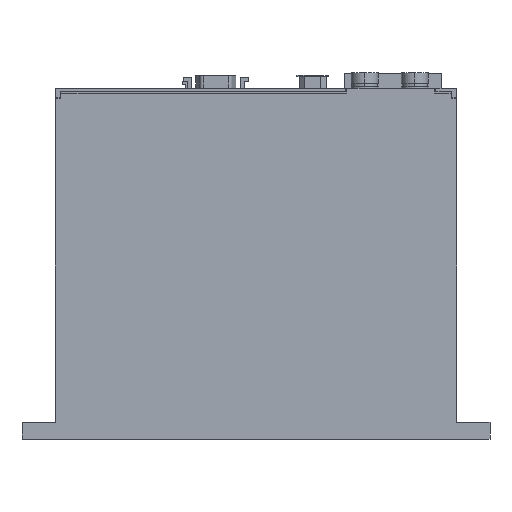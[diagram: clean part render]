
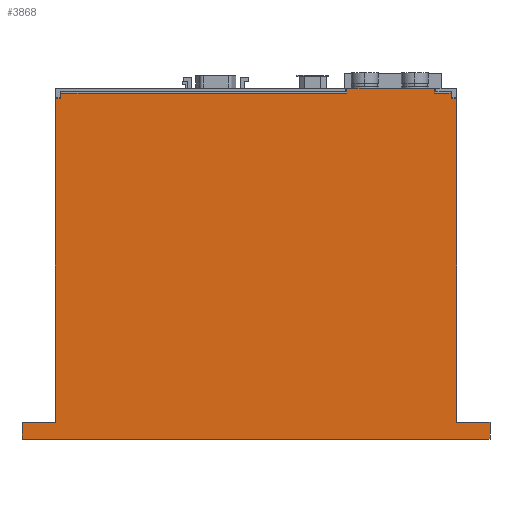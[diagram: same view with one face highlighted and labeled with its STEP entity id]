
A CAD part, left-side view. The second image highlights one B-rep face of the part: STEP entity #3868.
In plain terms, the highlighted planar face has unit normal (-1, 0, 0).
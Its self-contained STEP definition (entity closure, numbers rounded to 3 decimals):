
#2731 = VERTEX_POINT ( 'NONE', #9546 ) ;
#2733 = EDGE_CURVE ( 'NONE', #2731, #2734, #9545, .T. ) ;
#2734 = VERTEX_POINT ( 'NONE', #9541 ) ;
#2762 = EDGE_CURVE ( 'NONE', #2763, #2790, #9607, .T. ) ;
#2763 = VERTEX_POINT ( 'NONE', #9603 ) ;
#2779 = EDGE_CURVE ( 'NONE', #2780, #2781, #9640, .T. ) ;
#2780 = VERTEX_POINT ( 'NONE', #9636 ) ;
#2781 = VERTEX_POINT ( 'NONE', #9635 ) ;
#2790 = VERTEX_POINT ( 'NONE', #9683 ) ;
#2962 = VERTEX_POINT ( 'NONE', #9991 ) ;
#3026 = VERTEX_POINT ( 'NONE', #10134 ) ;
#3028 = EDGE_CURVE ( 'NONE', #3026, #2962, #10133, .T. ) ;
#3046 = VERTEX_POINT ( 'NONE', #10162 ) ;
#3048 = EDGE_CURVE ( 'NONE', #3046, #3026, #10161, .T. ) ;
#3088 = VERTEX_POINT ( 'NONE', #10215 ) ;
#3096 = VERTEX_POINT ( 'NONE', #10267 ) ;
#3119 = EDGE_CURVE ( 'NONE', #3120, #3121, #10299, .T. ) ;
#3120 = VERTEX_POINT ( 'NONE', #10295 ) ;
#3121 = VERTEX_POINT ( 'NONE', #10294 ) ;
#3287 = ORIENTED_EDGE ( 'NONE', *, *, #3923, .T. ) ;
#3848 = EDGE_CURVE ( 'NONE', #2731, #2780, #11495, .T. ) ;
#3849 = ORIENTED_EDGE ( 'NONE', *, *, #3850, .F. ) ;
#3850 = EDGE_CURVE ( 'NONE', #3121, #3875, #11491, .T. ) ;
#3851 = ORIENTED_EDGE ( 'NONE', *, *, #3119, .F. ) ;
#3852 = ORIENTED_EDGE ( 'NONE', *, *, #3853, .T. ) ;
#3853 = EDGE_CURVE ( 'NONE', #3120, #3854, #11487, .T. ) ;
#3854 = VERTEX_POINT ( 'NONE', #11483 ) ;
#3855 = ORIENTED_EDGE ( 'NONE', *, *, #3856, .T. ) ;
#3856 = EDGE_CURVE ( 'NONE', #3854, #2962, #11482, .T. ) ;
#3857 = ORIENTED_EDGE ( 'NONE', *, *, #3028, .F. ) ;
#3858 = ORIENTED_EDGE ( 'NONE', *, *, #3048, .F. ) ;
#3859 = ORIENTED_EDGE ( 'NONE', *, *, #3860, .T. ) ;
#3860 = EDGE_CURVE ( 'NONE', #3046, #3861, #11478, .T. ) ;
#3861 = VERTEX_POINT ( 'NONE', #11474 ) ;
#3868 = ADVANCED_FACE ( 'NONE', ( #11522 ), #11521, .F. ) ;
#3869 = EDGE_LOOP ( 'NONE', ( #3870, #3873, #3849, #3851, #3852, #3855, #3857, #3858, #3859, #3287, #3924, #3927, #3929, #3930, #3932, #3933, #3909, #3910 ) ) ;
#3870 = ORIENTED_EDGE ( 'NONE', *, *, #3871, .T. ) ;
#3871 = EDGE_CURVE ( 'NONE', #3872, #3096, #11516, .T. ) ;
#3872 = VERTEX_POINT ( 'NONE', #11512 ) ;
#3873 = ORIENTED_EDGE ( 'NONE', *, *, #3874, .T. ) ;
#3874 = EDGE_CURVE ( 'NONE', #3096, #3875, #11511, .T. ) ;
#3875 = VERTEX_POINT ( 'NONE', #11507 ) ;
#3909 = ORIENTED_EDGE ( 'NONE', *, *, #2779, .T. ) ;
#3910 = ORIENTED_EDGE ( 'NONE', *, *, #3911, .T. ) ;
#3911 = EDGE_CURVE ( 'NONE', #2781, #3872, #11578, .T. ) ;
#3923 = EDGE_CURVE ( 'NONE', #3861, #3088, #11617, .T. ) ;
#3924 = ORIENTED_EDGE ( 'NONE', *, *, #3925, .T. ) ;
#3925 = EDGE_CURVE ( 'NONE', #3088, #3926, #11613, .T. ) ;
#3926 = VERTEX_POINT ( 'NONE', #11609 ) ;
#3927 = ORIENTED_EDGE ( 'NONE', *, *, #3928, .T. ) ;
#3928 = EDGE_CURVE ( 'NONE', #3926, #2763, #11608, .T. ) ;
#3929 = ORIENTED_EDGE ( 'NONE', *, *, #2762, .T. ) ;
#3930 = ORIENTED_EDGE ( 'NONE', *, *, #3931, .F. ) ;
#3931 = EDGE_CURVE ( 'NONE', #2734, #2790, #11604, .T. ) ;
#3932 = ORIENTED_EDGE ( 'NONE', *, *, #2733, .F. ) ;
#3933 = ORIENTED_EDGE ( 'NONE', *, *, #3848, .T. ) ;
#9541 = CARTESIAN_POINT ( 'NONE',  ( -7., -118.4, 105. ) ) ;
#9542 = DIRECTION ( 'NONE',  ( 0., -1., 0. ) ) ;
#9543 = VECTOR ( 'NONE', #9542, 1000. ) ;
#9544 = CARTESIAN_POINT ( 'NONE',  ( -7., -92.2, 105. ) ) ;
#9545 = LINE ( 'NONE', #9544, #9543 ) ;
#9546 = CARTESIAN_POINT ( 'NONE',  ( -7., -92.2, 105. ) ) ;
#9603 = CARTESIAN_POINT ( 'NONE',  ( -7., -123.35, 103.54 ) ) ;
#9604 = DIRECTION ( 'NONE',  ( 0., 1., 0. ) ) ;
#9605 = VECTOR ( 'NONE', #9604, 1000. ) ;
#9606 = CARTESIAN_POINT ( 'NONE',  ( -7., -123.35, 103.54 ) ) ;
#9607 = LINE ( 'NONE', #9606, #9605 ) ;
#9635 = CARTESIAN_POINT ( 'NONE',  ( -7., -6.65, 103.54 ) ) ;
#9636 = CARTESIAN_POINT ( 'NONE',  ( -7., -92.2, 103.54 ) ) ;
#9637 = DIRECTION ( 'NONE',  ( 0., 1., 0. ) ) ;
#9638 = VECTOR ( 'NONE', #9637, 1000. ) ;
#9639 = CARTESIAN_POINT ( 'NONE',  ( -7., -123.35, 103.54 ) ) ;
#9640 = LINE ( 'NONE', #9639, #9638 ) ;
#9683 = CARTESIAN_POINT ( 'NONE',  ( -7., -118.4, 103.54 ) ) ;
#9991 = CARTESIAN_POINT ( 'NONE',  ( -7., -135., 0. ) ) ;
#10130 = DIRECTION ( 'NONE',  ( 0., 0., -1. ) ) ;
#10131 = VECTOR ( 'NONE', #10130, 1000. ) ;
#10132 = CARTESIAN_POINT ( 'NONE',  ( -7., -135., 147.215 ) ) ;
#10133 = LINE ( 'NONE', #10132, #10131 ) ;
#10134 = CARTESIAN_POINT ( 'NONE',  ( -7., -135., 5. ) ) ;
#10158 = DIRECTION ( 'NONE',  ( 0., -1., 0. ) ) ;
#10159 = VECTOR ( 'NONE', #10158, 1000. ) ;
#10160 = CARTESIAN_POINT ( 'NONE',  ( -7., 5., 5. ) ) ;
#10161 = LINE ( 'NONE', #10160, #10159 ) ;
#10162 = CARTESIAN_POINT ( 'NONE',  ( -7., -125., 5. ) ) ;
#10215 = CARTESIAN_POINT ( 'NONE',  ( -7., -123.55, 101.917 ) ) ;
#10267 = CARTESIAN_POINT ( 'NONE',  ( -7., -6.45, 101.917 ) ) ;
#10294 = CARTESIAN_POINT ( 'NONE',  ( -7., -5., 5. ) ) ;
#10295 = CARTESIAN_POINT ( 'NONE',  ( -7., 5., 5. ) ) ;
#10296 = DIRECTION ( 'NONE',  ( 0., -1., 0. ) ) ;
#10297 = VECTOR ( 'NONE', #10296, 1000. ) ;
#10298 = CARTESIAN_POINT ( 'NONE',  ( -7., 5., 5. ) ) ;
#10299 = LINE ( 'NONE', #10298, #10297 ) ;
#11474 = CARTESIAN_POINT ( 'NONE',  ( -7., -125., 101.917 ) ) ;
#11475 = DIRECTION ( 'NONE',  ( 0., 0., 1. ) ) ;
#11476 = VECTOR ( 'NONE', #11475, 1000. ) ;
#11477 = CARTESIAN_POINT ( 'NONE',  ( -7., -125., 101.917 ) ) ;
#11478 = LINE ( 'NONE', #11477, #11476 ) ;
#11479 = DIRECTION ( 'NONE',  ( 0., -1., 0. ) ) ;
#11480 = VECTOR ( 'NONE', #11479, 1000. ) ;
#11481 = CARTESIAN_POINT ( 'NONE',  ( -7., 5., 0. ) ) ;
#11482 = LINE ( 'NONE', #11481, #11480 ) ;
#11483 = CARTESIAN_POINT ( 'NONE',  ( -7., 5., 0. ) ) ;
#11484 = DIRECTION ( 'NONE',  ( 0., 0., -1. ) ) ;
#11485 = VECTOR ( 'NONE', #11484, 1000. ) ;
#11486 = CARTESIAN_POINT ( 'NONE',  ( -7., 5., 147.215 ) ) ;
#11487 = LINE ( 'NONE', #11486, #11485 ) ;
#11488 = DIRECTION ( 'NONE',  ( 0., 0., 1. ) ) ;
#11489 = VECTOR ( 'NONE', #11488, 1000. ) ;
#11490 = CARTESIAN_POINT ( 'NONE',  ( -7., -5., 5. ) ) ;
#11491 = LINE ( 'NONE', #11490, #11489 ) ;
#11492 = DIRECTION ( 'NONE',  ( 0., 0., -1. ) ) ;
#11493 = VECTOR ( 'NONE', #11492, 1000. ) ;
#11494 = CARTESIAN_POINT ( 'NONE',  ( -7., -92.2, 132.835 ) ) ;
#11495 = LINE ( 'NONE', #11494, #11493 ) ;
#11507 = CARTESIAN_POINT ( 'NONE',  ( -7., -5., 101.917 ) ) ;
#11508 = DIRECTION ( 'NONE',  ( 0., 1., 0. ) ) ;
#11509 = VECTOR ( 'NONE', #11508, 1000. ) ;
#11510 = CARTESIAN_POINT ( 'NONE',  ( -7., -105.12, 101.917 ) ) ;
#11511 = LINE ( 'NONE', #11510, #11509 ) ;
#11512 = CARTESIAN_POINT ( 'NONE',  ( -7., -6.65, 101.917 ) ) ;
#11513 = DIRECTION ( 'NONE',  ( 0., 1., 0. ) ) ;
#11514 = VECTOR ( 'NONE', #11513, 1000. ) ;
#11515 = CARTESIAN_POINT ( 'NONE',  ( -7., -6.65, 101.917 ) ) ;
#11516 = LINE ( 'NONE', #11515, #11514 ) ;
#11517 = DIRECTION ( 'NONE',  ( 0., 1., 0. ) ) ;
#11518 = DIRECTION ( 'NONE',  ( 1., 0., 0. ) ) ;
#11519 = CARTESIAN_POINT ( 'NONE',  ( -7., 5., 147.215 ) ) ;
#11520 = AXIS2_PLACEMENT_3D ( 'NONE', #11519, #11518, #11517 ) ;
#11521 = PLANE ( 'NONE',  #11520 ) ;
#11522 = FACE_OUTER_BOUND ( 'NONE', #3869, .T. ) ;
#11575 = DIRECTION ( 'NONE',  ( 0., 0., -1. ) ) ;
#11576 = VECTOR ( 'NONE', #11575, 1000. ) ;
#11577 = CARTESIAN_POINT ( 'NONE',  ( -7., -6.65, 103.54 ) ) ;
#11578 = LINE ( 'NONE', #11577, #11576 ) ;
#11601 = DIRECTION ( 'NONE',  ( 0., 0., -1. ) ) ;
#11602 = VECTOR ( 'NONE', #11601, 1000. ) ;
#11603 = CARTESIAN_POINT ( 'NONE',  ( -7., -118.4, 132.835 ) ) ;
#11604 = LINE ( 'NONE', #11603, #11602 ) ;
#11605 = DIRECTION ( 'NONE',  ( 0., 0., 1. ) ) ;
#11606 = VECTOR ( 'NONE', #11605, 1000. ) ;
#11607 = CARTESIAN_POINT ( 'NONE',  ( -7., -123.35, 101.917 ) ) ;
#11608 = LINE ( 'NONE', #11607, #11606 ) ;
#11609 = CARTESIAN_POINT ( 'NONE',  ( -7., -123.35, 101.917 ) ) ;
#11610 = DIRECTION ( 'NONE',  ( 0., 1., 0. ) ) ;
#11611 = VECTOR ( 'NONE', #11610, 1000. ) ;
#11612 = CARTESIAN_POINT ( 'NONE',  ( -7., -123.55, 101.917 ) ) ;
#11613 = LINE ( 'NONE', #11612, #11611 ) ;
#11614 = DIRECTION ( 'NONE',  ( 0., 1., 0. ) ) ;
#11615 = VECTOR ( 'NONE', #11614, 1000. ) ;
#11616 = CARTESIAN_POINT ( 'NONE',  ( -7., -223.152, 101.917 ) ) ;
#11617 = LINE ( 'NONE', #11616, #11615 ) ;
